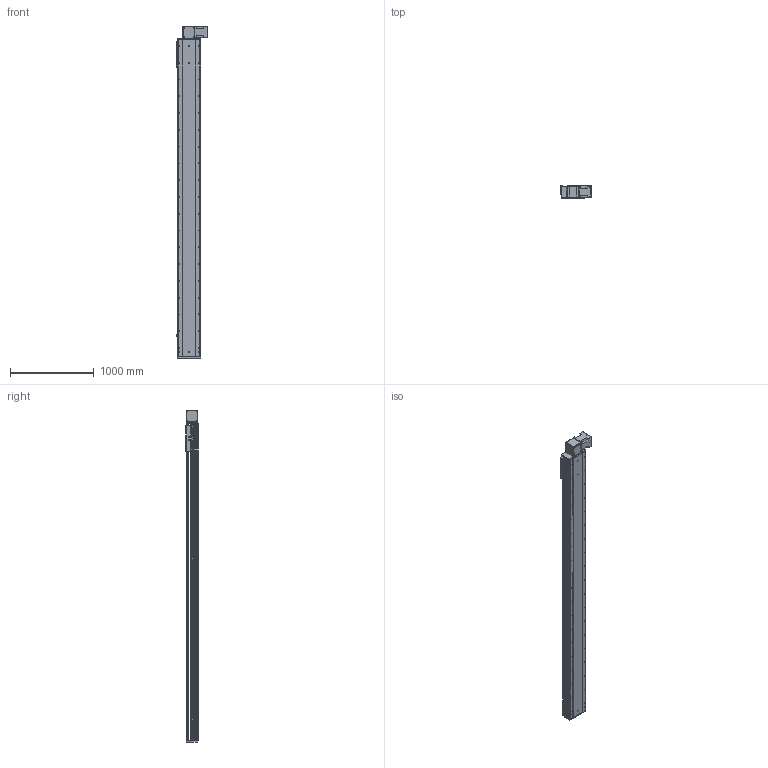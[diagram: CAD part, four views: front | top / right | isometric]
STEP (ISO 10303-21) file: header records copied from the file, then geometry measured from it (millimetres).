
FILE_DESCRIPTION (( 'STEP AP214' ), '1' );
FILE_NAME ('RTB28S-XX-3350-BL-M100-XX-C4.STEP', '2025-12-22T02:38:42', ( '' ), ( '' ), 'SwSTEP 2.0', 'SolidWorks 2018', '' );
FILE_SCHEMA (( 'AUTOMOTIVE_DESIGN' ));
Length unit declared in the file: millimetre
Products named in the file (4): RTB28S-XX-3350-BL-M100-XX-C4; RTB28S-GY-004^RTB28S-XX-XX-BL-M100-XX-C4; RTB28S-GY-011^RTB28S-XX-XX-BL-M100-XX-C4; RTB28S-GY-008^RTB28S-XX-XX-BL-M100-XX-C4
Assembly tree (3 placements, depth 2):
  RTB28S-XX-3350-BL-M100-XX-C4
    RTB28S-GY-011^RTB28S-XX-XX-BL-M100-XX-C4
    RTB28S-GY-004^RTB28S-XX-XX-BL-M100-XX-C4
    RTB28S-GY-008^RTB28S-XX-XX-BL-M100-XX-C4
Bounding box: 380.7 x 145 x 3957 mm (x, y, z)
Volume: 66615744.6 mm3; surface area: 6202459.3 mm2
Topology: 3 solids, 4 shells, 908 faces, 2448 edges, 1568 vertices
Faces by surface type: cylinder 455, plane 369, cone 80, torus 4
Entity records: 35345 total; most frequent: CARTESIAN_POINT 6802, DIRECTION 5214, ORIENTED_EDGE 4832, EDGE_CURVE 2416, AXIS2_PLACEMENT_3D 1932, VERTEX_POINT 1568, LINE 1350, VECTOR 1350
